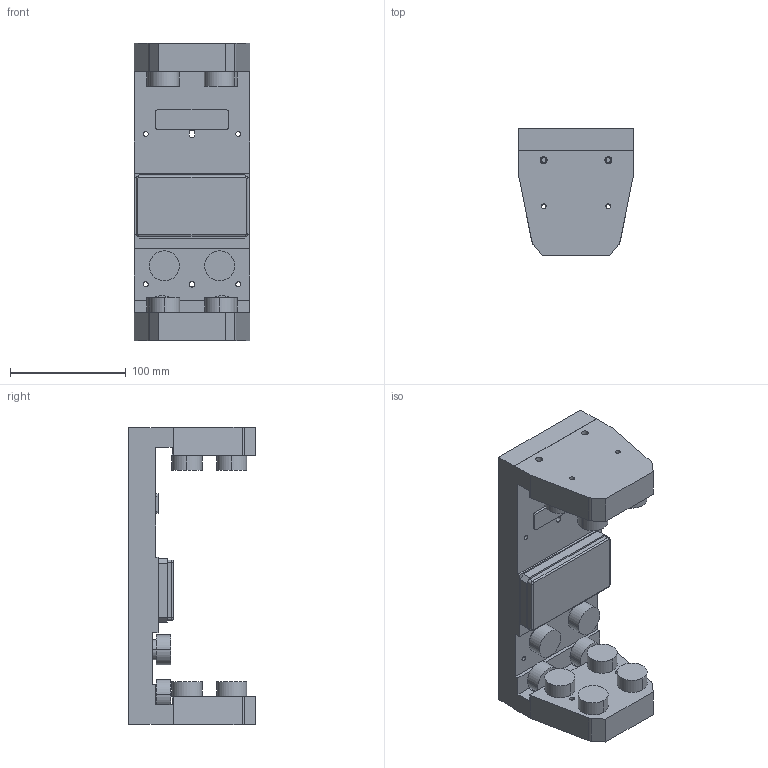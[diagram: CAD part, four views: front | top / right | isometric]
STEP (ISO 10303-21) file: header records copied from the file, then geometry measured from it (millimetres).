
FILE_DESCRIPTION((''),'2;1');
FILE_NAME('W0001033986','2024-08-20T15:49:19',('RRajan1'),('Rockwell Automation'),'CREO PARAMETRIC BY PTC INC, 2020281','CREO PARAMETRIC BY PTC INC, 2020281','');
FILE_SCHEMA(('CONFIG_CONTROL_DESIGN'));
Length unit declared in the file: millimetre
Products named in the file (1): W0001033986
Bounding box: 100 x 109.97 x 257.6 mm (x, y, z)
Volume: 1099257.5 mm3; surface area: 137214 mm2
Topology: 1 solids, 1 shells, 193 faces, 468 edges, 308 vertices
Faces by surface type: cylinder 102, plane 87, bspline 4
Entity records: 5884 total; most frequent: CARTESIAN_POINT 1073, DIRECTION 1046, ORIENTED_EDGE 936, EDGE_CURVE 468, AXIS2_PLACEMENT_3D 393, VERTEX_POINT 308, VECTOR 260, LINE 260
